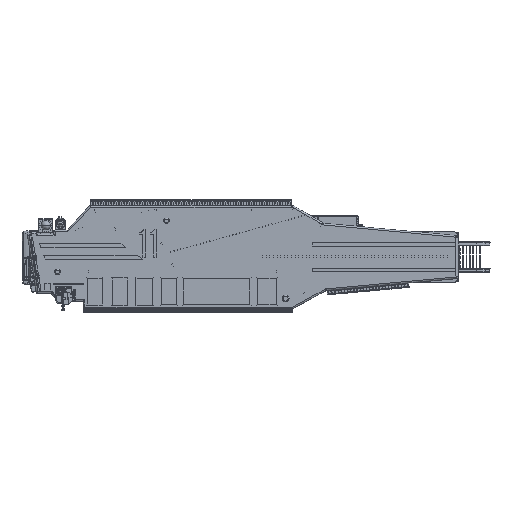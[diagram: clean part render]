
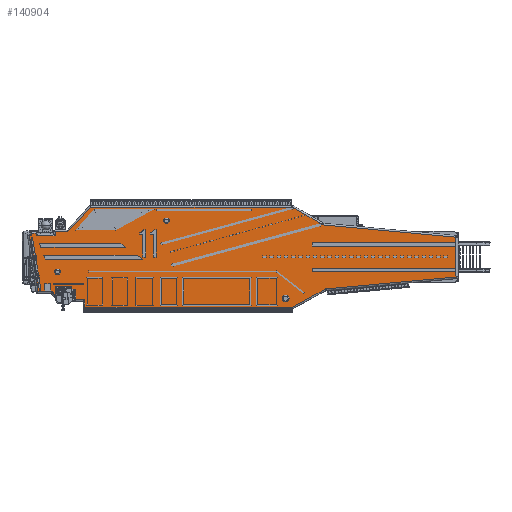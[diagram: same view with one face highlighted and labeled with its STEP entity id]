
A CAD part, top view. The second image highlights one B-rep face of the part: STEP entity #140904.
In plain terms, the highlighted planar face has unit normal (0, 0, 1).
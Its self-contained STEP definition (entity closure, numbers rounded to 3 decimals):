
#140142=CARTESIAN_POINT('Vertex',(1839.25,-443.441,0.1)) ;
#140156=CARTESIAN_POINT('Vertex',(2129.178,-284.667,0.1)) ;
#140159=CARTESIAN_POINT('Line Origine',(1984.214,-364.054,0.1)) ;
#140193=CARTESIAN_POINT('Vertex',(2140.076,-281.342,0.1)) ;
#140197=CARTESIAN_POINT('Control Point',(2140.076,-281.342,0.1)) ;
#140198=CARTESIAN_POINT('Control Point',(2137.22,-281.604,0.1)) ;
#140199=CARTESIAN_POINT('Control Point',(2134.399,-282.255,0.1)) ;
#140200=CARTESIAN_POINT('Control Point',(2131.694,-283.29,0.1)) ;
#140201=CARTESIAN_POINT('Control Point',(2129.178,-284.667,0.1)) ;
#140232=CARTESIAN_POINT('Vertex',(3286.181,-176.485,0.1)) ;
#140236=CARTESIAN_POINT('Control Point',(3286.181,-176.485,0.1)) ;
#140237=CARTESIAN_POINT('Control Point',(2999.655,-202.699,0.1)) ;
#140238=CARTESIAN_POINT('Control Point',(2713.129,-228.914,0.1)) ;
#140239=CARTESIAN_POINT('Control Point',(2426.602,-255.128,0.1)) ;
#140240=CARTESIAN_POINT('Control Point',(2140.076,-281.342,0.1)) ;
#140265=CARTESIAN_POINT('Vertex',(3286.181,176.504,0.1)) ;
#140268=CARTESIAN_POINT('Line Origine',(3286.181,0.01,0.1)) ;
#140302=CARTESIAN_POINT('Vertex',(2116.14,284.769,0.1)) ;
#140306=CARTESIAN_POINT('Control Point',(2116.14,284.769,0.1)) ;
#140307=CARTESIAN_POINT('Control Point',(2408.651,257.703,0.1)) ;
#140308=CARTESIAN_POINT('Control Point',(2701.161,230.637,0.1)) ;
#140309=CARTESIAN_POINT('Control Point',(2993.671,203.57,0.1)) ;
#140310=CARTESIAN_POINT('Control Point',(3286.181,176.504,0.1)) ;
#140341=CARTESIAN_POINT('Vertex',(2104.608,288.467,0.1)) ;
#140345=CARTESIAN_POINT('Control Point',(2104.608,288.467,0.1)) ;
#140346=CARTESIAN_POINT('Control Point',(2107.243,286.929,0.1)) ;
#140347=CARTESIAN_POINT('Control Point',(2110.103,285.773,0.1)) ;
#140348=CARTESIAN_POINT('Control Point',(2113.101,285.051,0.1)) ;
#140349=CARTESIAN_POINT('Control Point',(2116.14,284.769,0.1)) ;
#140374=CARTESIAN_POINT('Vertex',(1839.046,443.441,0.1)) ;
#140377=CARTESIAN_POINT('Line Origine',(1971.827,365.954,0.1)) ;
#140405=CARTESIAN_POINT('Vertex',(52.3,443.441,0.1)) ;
#140408=CARTESIAN_POINT('Line Origine',(945.673,443.441,0.1)) ;
#140436=CARTESIAN_POINT('Vertex',(-148.613,224.677,0.1)) ;
#140439=CARTESIAN_POINT('Line Origine',(-48.156,334.059,0.1)) ;
#140467=CARTESIAN_POINT('Vertex',(-262.014,224.677,0.1)) ;
#140470=CARTESIAN_POINT('Line Origine',(-205.314,224.677,0.1)) ;
#140498=CARTESIAN_POINT('Vertex',(-262.014,188.57,0.1)) ;
#140501=CARTESIAN_POINT('Line Origine',(-262.014,206.624,0.1)) ;
#140529=CARTESIAN_POINT('Vertex',(-428.845,188.57,0.1)) ;
#140532=CARTESIAN_POINT('Line Origine',(-345.43,188.57,0.1)) ;
#140560=CARTESIAN_POINT('Vertex',(-428.845,211.471,0.1)) ;
#140563=CARTESIAN_POINT('Line Origine',(-428.845,200.021,0.1)) ;
#140591=CARTESIAN_POINT('Vertex',(-470.402,211.471,0.1)) ;
#140594=CARTESIAN_POINT('Line Origine',(-449.624,211.471,0.1)) ;
#140622=CARTESIAN_POINT('Vertex',(-470.402,189.848,0.1)) ;
#140625=CARTESIAN_POINT('Line Origine',(-470.402,200.659,0.1)) ;
#140653=CARTESIAN_POINT('Vertex',(-491.962,189.848,0.1)) ;
#140656=CARTESIAN_POINT('Line Origine',(-481.182,189.848,0.1)) ;
#140684=CARTESIAN_POINT('Vertex',(-414.64,-308.043,0.1)) ;
#140687=CARTESIAN_POINT('Line Origine',(-453.301,-59.097,0.1)) ;
#140715=CARTESIAN_POINT('Vertex',(-289.608,-308.043,0.1)) ;
#140718=CARTESIAN_POINT('Line Origine',(-352.124,-308.043,0.1)) ;
#140746=CARTESIAN_POINT('Vertex',(-241.28,-378.133,0.1)) ;
#140749=CARTESIAN_POINT('Line Origine',(-265.444,-343.088,0.1)) ;
#140777=CARTESIAN_POINT('Vertex',(2.172,-378.133,0.1)) ;
#140780=CARTESIAN_POINT('Line Origine',(-119.554,-378.133,0.1)) ;
#140808=CARTESIAN_POINT('Vertex',(2.172,-443.441,0.1)) ;
#140811=CARTESIAN_POINT('Line Origine',(2.172,-410.787,0.1)) ;
#140833=CARTESIAN_POINT('Line Origine',(920.711,-443.441,0.1)) ;
#140875=CARTESIAN_POINT('Axis2P3D Location',(0.,0.,0.1)) ;
#140160=DIRECTION('Vector Direction',(-0.877,-0.48,0.)) ;
#140269=DIRECTION('Vector Direction',(0.,-1.,0.)) ;
#140378=DIRECTION('Vector Direction',(0.864,-0.504,0.)) ;
#140409=DIRECTION('Vector Direction',(1.,0.,0.)) ;
#140440=DIRECTION('Vector Direction',(0.676,0.737,0.)) ;
#140471=DIRECTION('Vector Direction',(1.,0.,0.)) ;
#140502=DIRECTION('Vector Direction',(0.,1.,0.)) ;
#140533=DIRECTION('Vector Direction',(1.,0.,0.)) ;
#140564=DIRECTION('Vector Direction',(0.,-1.,0.)) ;
#140595=DIRECTION('Vector Direction',(1.,0.,0.)) ;
#140626=DIRECTION('Vector Direction',(0.,1.,0.)) ;
#140657=DIRECTION('Vector Direction',(1.,0.,0.)) ;
#140688=DIRECTION('Vector Direction',(-0.153,0.988,0.)) ;
#140719=DIRECTION('Vector Direction',(-1.,0.,0.)) ;
#140750=DIRECTION('Vector Direction',(-0.568,0.823,0.)) ;
#140781=DIRECTION('Vector Direction',(-1.,0.,0.)) ;
#140812=DIRECTION('Vector Direction',(0.,1.,0.)) ;
#140834=DIRECTION('Vector Direction',(-1.,0.,0.)) ;
#140876=DIRECTION('Axis2P3D Direction',(-0.,0.,1.)) ;
#140877=DIRECTION('Axis2P3D XDirection',(1.,0.,0.)) ;
#140878=AXIS2_PLACEMENT_3D('Plane Axis2P3D',#140875,#140876,#140877) ;
#140881=ORIENTED_EDGE('',*,*,#140163,.T.) ;
#140882=ORIENTED_EDGE('',*,*,#140202,.T.) ;
#140883=ORIENTED_EDGE('',*,*,#140241,.T.) ;
#140884=ORIENTED_EDGE('',*,*,#140272,.T.) ;
#140885=ORIENTED_EDGE('',*,*,#140311,.T.) ;
#140886=ORIENTED_EDGE('',*,*,#140350,.T.) ;
#140887=ORIENTED_EDGE('',*,*,#140381,.T.) ;
#140888=ORIENTED_EDGE('',*,*,#140412,.T.) ;
#140889=ORIENTED_EDGE('',*,*,#140443,.T.) ;
#140890=ORIENTED_EDGE('',*,*,#140474,.T.) ;
#140891=ORIENTED_EDGE('',*,*,#140505,.T.) ;
#140892=ORIENTED_EDGE('',*,*,#140536,.T.) ;
#140893=ORIENTED_EDGE('',*,*,#140567,.T.) ;
#140894=ORIENTED_EDGE('',*,*,#140598,.T.) ;
#140895=ORIENTED_EDGE('',*,*,#140629,.T.) ;
#140896=ORIENTED_EDGE('',*,*,#140660,.T.) ;
#140897=ORIENTED_EDGE('',*,*,#140691,.T.) ;
#140898=ORIENTED_EDGE('',*,*,#140722,.T.) ;
#140899=ORIENTED_EDGE('',*,*,#140753,.T.) ;
#140900=ORIENTED_EDGE('',*,*,#140784,.T.) ;
#140901=ORIENTED_EDGE('',*,*,#140815,.T.) ;
#140902=ORIENTED_EDGE('',*,*,#140837,.T.) ;
#140161=VECTOR('Line Direction',#140160,1.) ;
#140270=VECTOR('Line Direction',#140269,1.) ;
#140379=VECTOR('Line Direction',#140378,1.) ;
#140410=VECTOR('Line Direction',#140409,1.) ;
#140441=VECTOR('Line Direction',#140440,1.) ;
#140472=VECTOR('Line Direction',#140471,1.) ;
#140503=VECTOR('Line Direction',#140502,1.) ;
#140534=VECTOR('Line Direction',#140533,1.) ;
#140565=VECTOR('Line Direction',#140564,1.) ;
#140596=VECTOR('Line Direction',#140595,1.) ;
#140627=VECTOR('Line Direction',#140626,1.) ;
#140658=VECTOR('Line Direction',#140657,1.) ;
#140689=VECTOR('Line Direction',#140688,1.) ;
#140720=VECTOR('Line Direction',#140719,1.) ;
#140751=VECTOR('Line Direction',#140750,1.) ;
#140782=VECTOR('Line Direction',#140781,1.) ;
#140813=VECTOR('Line Direction',#140812,1.) ;
#140835=VECTOR('Line Direction',#140834,1.) ;
#140904=ADVANCED_FACE('Body.28',(#140903),#140879,.T.) ;
#140196=B_SPLINE_CURVE_WITH_KNOTS('',4,(#140197,#140198,#140199,#140200,#140201),.UNSPECIFIED.,.F.,.U.,(5,5),(8366.215,8377.689),.UNSPECIFIED.) ;
#140235=B_SPLINE_CURVE_WITH_KNOTS('',4,(#140236,#140237,#140238,#140239,#140240),.UNSPECIFIED.,.F.,.U.,(5,5),(7215.324,8366.215),.UNSPECIFIED.) ;
#140305=B_SPLINE_CURVE_WITH_KNOTS('',4,(#140306,#140307,#140308,#140309,#140310),.UNSPECIFIED.,.F.,.U.,(5,5),(5687.296,6862.335),.UNSPECIFIED.) ;
#140344=B_SPLINE_CURVE_WITH_KNOTS('',4,(#140345,#140346,#140347,#140348,#140349),.UNSPECIFIED.,.F.,.U.,(5,5),(5675.088,5687.296),.UNSPECIFIED.) ;
#140163=EDGE_CURVE('',#140143,#140157,#140162,.F.) ;
#140202=EDGE_CURVE('',#140157,#140194,#140196,.F.) ;
#140241=EDGE_CURVE('',#140194,#140233,#140235,.F.) ;
#140272=EDGE_CURVE('',#140233,#140266,#140271,.F.) ;
#140311=EDGE_CURVE('',#140266,#140303,#140305,.F.) ;
#140350=EDGE_CURVE('',#140303,#140342,#140344,.F.) ;
#140381=EDGE_CURVE('',#140342,#140375,#140380,.F.) ;
#140412=EDGE_CURVE('',#140375,#140406,#140411,.F.) ;
#140443=EDGE_CURVE('',#140406,#140437,#140442,.F.) ;
#140474=EDGE_CURVE('',#140437,#140468,#140473,.F.) ;
#140505=EDGE_CURVE('',#140468,#140499,#140504,.F.) ;
#140536=EDGE_CURVE('',#140499,#140530,#140535,.F.) ;
#140567=EDGE_CURVE('',#140530,#140561,#140566,.F.) ;
#140598=EDGE_CURVE('',#140561,#140592,#140597,.F.) ;
#140629=EDGE_CURVE('',#140592,#140623,#140628,.F.) ;
#140660=EDGE_CURVE('',#140623,#140654,#140659,.F.) ;
#140691=EDGE_CURVE('',#140654,#140685,#140690,.F.) ;
#140722=EDGE_CURVE('',#140685,#140716,#140721,.F.) ;
#140753=EDGE_CURVE('',#140716,#140747,#140752,.F.) ;
#140784=EDGE_CURVE('',#140747,#140778,#140783,.F.) ;
#140815=EDGE_CURVE('',#140778,#140809,#140814,.F.) ;
#140837=EDGE_CURVE('',#140809,#140143,#140836,.F.) ;
#140880=EDGE_LOOP('',(#140881,#140882,#140883,#140884,#140885,#140886,#140887,#140888,#140889,#140890,#140891,#140892,#140893,#140894,#140895,#140896,#140897,#140898,#140899,#140900,#140901,#140902)) ;
#140903=FACE_OUTER_BOUND('',#140880,.T.) ;
#140162=LINE('Line',#140159,#140161) ;
#140271=LINE('Line',#140268,#140270) ;
#140380=LINE('Line',#140377,#140379) ;
#140411=LINE('Line',#140408,#140410) ;
#140442=LINE('Line',#140439,#140441) ;
#140473=LINE('Line',#140470,#140472) ;
#140504=LINE('Line',#140501,#140503) ;
#140535=LINE('Line',#140532,#140534) ;
#140566=LINE('Line',#140563,#140565) ;
#140597=LINE('Line',#140594,#140596) ;
#140628=LINE('Line',#140625,#140627) ;
#140659=LINE('Line',#140656,#140658) ;
#140690=LINE('Line',#140687,#140689) ;
#140721=LINE('Line',#140718,#140720) ;
#140752=LINE('Line',#140749,#140751) ;
#140783=LINE('Line',#140780,#140782) ;
#140814=LINE('Line',#140811,#140813) ;
#140836=LINE('Line',#140833,#140835) ;
#140879=PLANE('',#140878) ;
#140143=VERTEX_POINT('',#140142) ;
#140157=VERTEX_POINT('',#140156) ;
#140194=VERTEX_POINT('',#140193) ;
#140233=VERTEX_POINT('',#140232) ;
#140266=VERTEX_POINT('',#140265) ;
#140303=VERTEX_POINT('',#140302) ;
#140342=VERTEX_POINT('',#140341) ;
#140375=VERTEX_POINT('',#140374) ;
#140406=VERTEX_POINT('',#140405) ;
#140437=VERTEX_POINT('',#140436) ;
#140468=VERTEX_POINT('',#140467) ;
#140499=VERTEX_POINT('',#140498) ;
#140530=VERTEX_POINT('',#140529) ;
#140561=VERTEX_POINT('',#140560) ;
#140592=VERTEX_POINT('',#140591) ;
#140623=VERTEX_POINT('',#140622) ;
#140654=VERTEX_POINT('',#140653) ;
#140685=VERTEX_POINT('',#140684) ;
#140716=VERTEX_POINT('',#140715) ;
#140747=VERTEX_POINT('',#140746) ;
#140778=VERTEX_POINT('',#140777) ;
#140809=VERTEX_POINT('',#140808) ;
